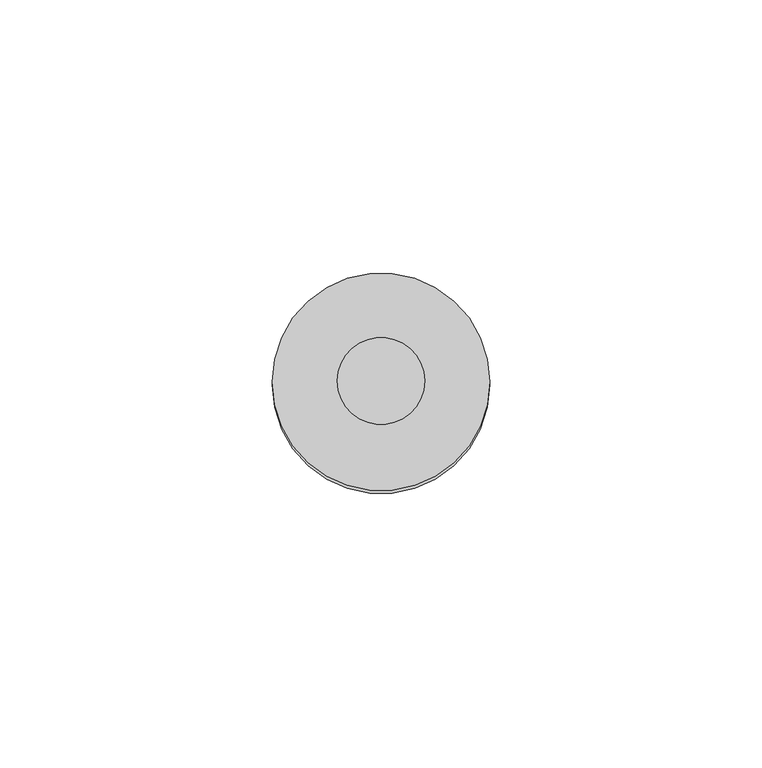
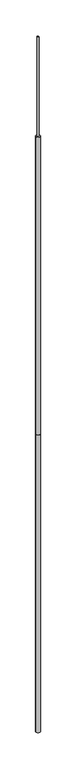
"""IFC4 building model written with IfcOpenShell, lengths in millimetres: proxy geometry, КНС_МачтаМолниеприемная_DKC : NL7000_СтальНержавеющая_7м."""

from ifc_helpers import new_model, si_unit, point, frame, origin, origin_with_axes, origin_2d, place, context, project, spatial, circle_curve, trimmed, segment, composite_curve, outline, extrude, source, transform, mapped, element, save


def security_devices_c9c6f2a6(model_context):
    return source(origin(), model_context, "Body", "SweptSolid", [
        extrude(outline(composite_curve([segment(trimmed(circle_curve(origin_2d(), 8.0), [point((-8.0, 0.0))], [point((8.0, 0.0))], False, "CARTESIAN"), True, "CONTINUOUS"), segment(trimmed(circle_curve(origin_2d(), 8.0), [point((8.0, 0.0))], [point((-8.0, 0.0))], False, "CARTESIAN"), True, "CONTINUOUS")], self_intersect=False)), frame((0.0, 0.0, 6000.0), z_axis=(0.0, 0.0, 1.0), x_axis=(1.0, 0.0, 0.0)), (0.0, 0.0, 1.0), 1000.0),
        extrude(outline(composite_curve([segment(trimmed(circle_curve(origin_2d(), 20.0), [point((-20.0, 0.0))], [point((20.0, 0.0))], False, "CARTESIAN"), True, "CONTINUOUS"), segment(trimmed(circle_curve(origin_2d(), 20.0), [point((20.0, 0.0))], [point((-20.0, 0.0))], False, "CARTESIAN"), True, "CONTINUOUS")], self_intersect=False)), frame((0.0, 0.0, 3000.0), z_axis=(0.0, 0.0, 1.0), x_axis=(1.0, 0.0, 0.0)), (0.0, 0.0, 1.0), 3000.0),
        extrude(outline(composite_curve([segment(trimmed(circle_curve(origin_2d(), 20.0), [point((-20.0, 0.0))], [point((20.0, 0.0))], False, "CARTESIAN"), True, "CONTINUOUS"), segment(trimmed(circle_curve(origin_2d(), 20.0), [point((20.0, 0.0))], [point((-20.0, 0.0))], False, "CARTESIAN"), True, "CONTINUOUS")], self_intersect=False)), origin_with_axes(), (0.0, 0.0, 1.0), 3000.0),
    ])


if __name__ == "__main__":
    model = new_model("IFC4")
    model_context = context("Model", 3, world=origin())
    ifc_project = project(units=[si_unit("LENGTHUNIT", "METRE", prefix="MILLI")], contexts=[model_context])
    site = spatial("IfcSite", under=ifc_project)
    building = spatial("IfcBuilding", under=site)
    placement = place(None, origin())
    security_devices_shape = security_devices_c9c6f2a6(model_context)
    element("IfcBuildingElementProxy", 1, Name="КНС_МачтаМолниеприемная_DKC : NL7000_СтальНержавеющая_7м", ObjectType="КНС_МачтаМолниеприемная_DKC : NL7000_СтальНержавеющая_7м", at=placement, inside=building, context=model_context, shape_type="MappedRepresentation", body=[
        mapped(security_devices_shape, transform((0.0, 0.0, 0.0), x_axis=(1.0, 0.0, 0.0), y_axis=(0.0, 1.0, 0.0), z_axis=(0.0, 0.0, 1.0))),
    ])
    save(model, "model.ifc")
